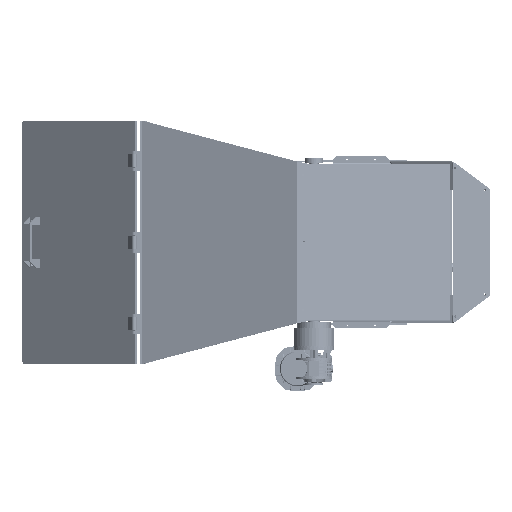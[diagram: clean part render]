
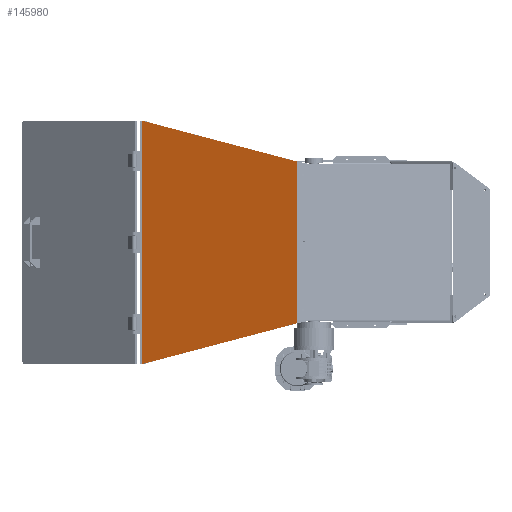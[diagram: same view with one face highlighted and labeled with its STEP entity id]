
A CAD part, left-side view. The second image highlights one B-rep face of the part: STEP entity #145980.
In plain terms, the highlighted planar face has unit normal (-0.94, 0.341, 0) as drawn and (0, 0.94, -0.341) by its records, which use the part's own axes.
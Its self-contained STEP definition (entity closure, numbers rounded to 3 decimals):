
#9599 = FACE_OUTER_BOUND ( 'NONE', #115375, .T. ) ;
#11265 = EDGE_CURVE ( 'NONE', #35377, #109911, #70918, .T. ) ;
#11281 = LINE ( 'NONE', #115531, #169067 ) ;
#24843 = VECTOR ( 'NONE', #166014, 1000. ) ;
#25312 = CARTESIAN_POINT ( 'NONE',  ( -328.1, 811.04, -152. ) ) ;
#29674 = VECTOR ( 'NONE', #136439, 1000. ) ;
#32965 = VECTOR ( 'NONE', #98018, 1000. ) ;
#35377 = VERTEX_POINT ( 'NONE', #117479 ) ;
#36893 = CARTESIAN_POINT ( 'NONE',  ( -328.1, 811.04, -152. ) ) ;
#39682 = DIRECTION ( 'NONE',  ( 0., -0.94, 0.341 ) ) ;
#42614 = ORIENTED_EDGE ( 'NONE', *, *, #11265, .T. ) ;
#61267 = CARTESIAN_POINT ( 'NONE',  ( 328.1, 811.04, -152. ) ) ;
#68974 = AXIS2_PLACEMENT_3D ( 'NONE', #177887, #39682, #147863 ) ;
#70918 = LINE ( 'NONE', #132063, #24843 ) ;
#71745 = VERTEX_POINT ( 'NONE', #61267 ) ;
#76276 = CARTESIAN_POINT ( 'NONE',  ( -218.093, 962.152, 265.068 ) ) ;
#80531 = EDGE_CURVE ( 'NONE', #35377, #91672, #182452, .T. ) ;
#85470 = DIRECTION ( 'NONE',  ( 0.241, -0.331, -0.913 ) ) ;
#86744 = PLANE ( 'NONE',  #68974 ) ;
#91672 = VERTEX_POINT ( 'NONE', #25312 ) ;
#97800 = EDGE_CURVE ( 'NONE', #109911, #71745, #11281, .T. ) ;
#98018 = DIRECTION ( 'NONE',  ( 1., 0., 0. ) ) ;
#109911 = VERTEX_POINT ( 'NONE', #138276 ) ;
#115375 = EDGE_LOOP ( 'NONE', ( #42614, #161738, #170397, #186264 ) ) ;
#115531 = CARTESIAN_POINT ( 'NONE',  ( 218.093, 962.152, 265.068 ) ) ;
#117479 = CARTESIAN_POINT ( 'NONE',  ( -218.093, 962.152, 265.068 ) ) ;
#132063 = CARTESIAN_POINT ( 'NONE',  ( -218.093, 962.152, 265.068 ) ) ;
#136439 = DIRECTION ( 'NONE',  ( -0.241, -0.331, -0.913 ) ) ;
#138276 = CARTESIAN_POINT ( 'NONE',  ( 218.093, 962.152, 265.068 ) ) ;
#145980 = ADVANCED_FACE ( 'NONE', ( #9599 ), #86744, .F. ) ;
#147863 = DIRECTION ( 'NONE',  ( -1., 0., 0. ) ) ;
#161738 = ORIENTED_EDGE ( 'NONE', *, *, #97800, .T. ) ;
#166014 = DIRECTION ( 'NONE',  ( 1., 0., 0. ) ) ;
#169067 = VECTOR ( 'NONE', #85470, 1000. ) ;
#170397 = ORIENTED_EDGE ( 'NONE', *, *, #175990, .F. ) ;
#174126 = LINE ( 'NONE', #36893, #32965 ) ;
#175990 = EDGE_CURVE ( 'NONE', #91672, #71745, #174126, .T. ) ;
#177887 = CARTESIAN_POINT ( 'NONE',  ( -328.1, 961.917, 264.42 ) ) ;
#182452 = LINE ( 'NONE', #76276, #29674 ) ;
#186264 = ORIENTED_EDGE ( 'NONE', *, *, #80531, .F. ) ;
